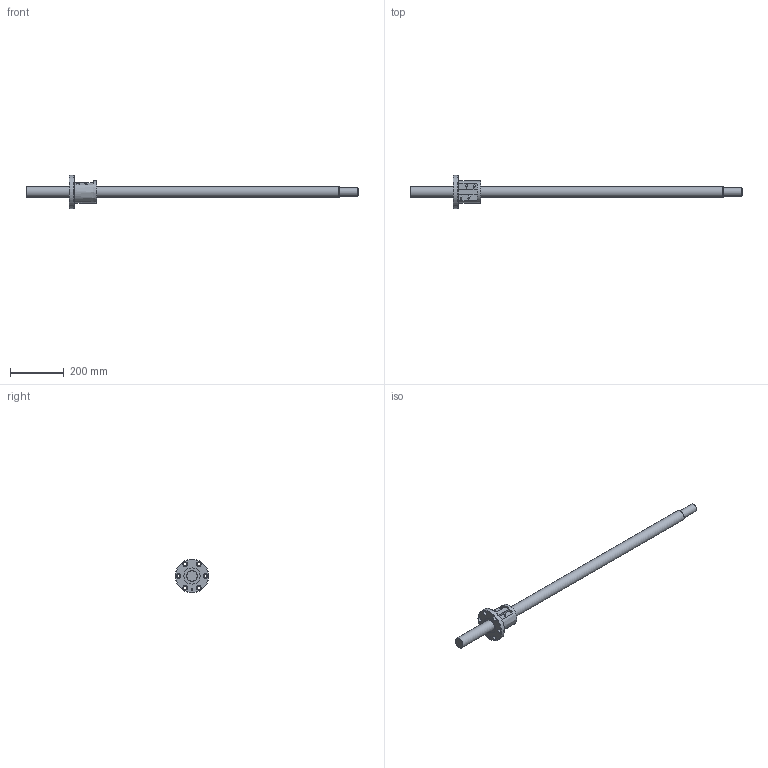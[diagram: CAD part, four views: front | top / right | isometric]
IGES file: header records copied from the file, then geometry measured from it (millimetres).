
Start section: Data from Parasolid IGES Translator 26.0.171, Copyright(c) 2006 Siemens PLM Software. All Rights Reserved.
Global section: file name: BNF4010-5RRG1+1230LC5A(00).igs; native system: By Siemens PLM Incorporated; preprocessor: XPlus GENERIC/IGES 26.0.171; author: Noname; organization: Noname; date: 20240715.075010; units: millimetre
Bounding box: 1230 x 124 x 124 mm (x, y, z)
Surface area: 226553.9 mm2 (no closed solid volume)
Topology: 0 solids, 0 shells, 70 faces, 322 edges, 288 vertices
Faces by surface type: revolution 46, extrusion 24
